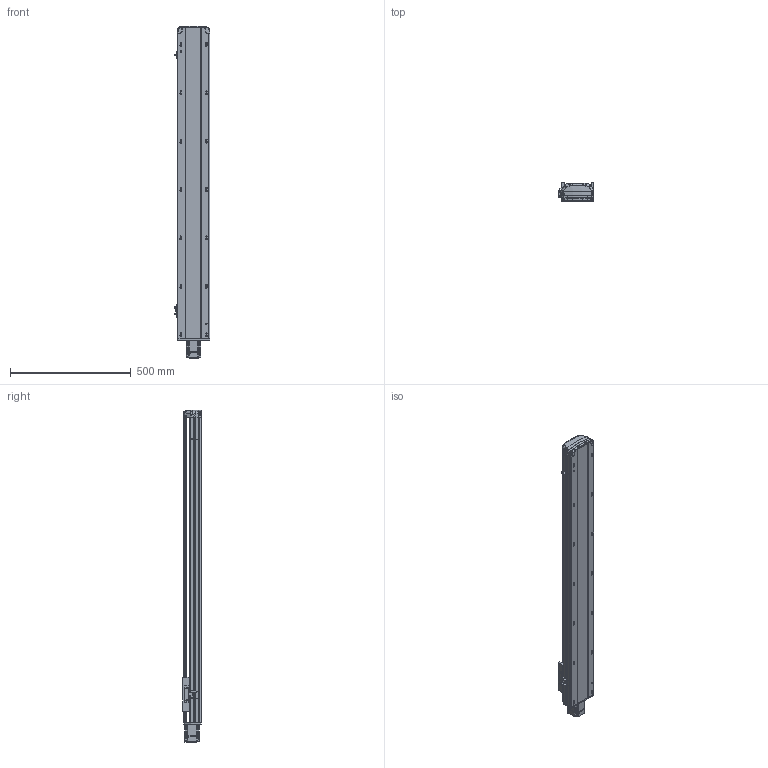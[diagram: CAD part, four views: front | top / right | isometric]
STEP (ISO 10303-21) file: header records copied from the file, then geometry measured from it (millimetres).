
FILE_DESCRIPTION (( 'STEP AP214' ), '1' );
FILE_NAME ('RTH14-XX-1050-E-M20-C4.STEP', '2025-10-24T09:15:28', ( 'Microsoft' ), ( 'Microsoft' ), 'SwSTEP 2.0', 'SolidWorks 2018', '' );
FILE_SCHEMA (( 'AUTOMOTIVE_DESIGN' ));
Length unit declared in the file: millimetre
Products named in the file (9): N_RTH14-E-007P奻裔^RTH14-XX-XX-E-M20-C4; N_RTH14-E-011P菁釱^RTH14-XX-XX-E-M20-C4; N_OMRON EE-SX672 传感器^RTH14-XX-XX-E-M20-C4; RTH14-XX-1050-E-M20-C4; N_MSMD022P1AA_200W^RTH14-XX-XX-E-M20-C4; N_RTH13-L-012感应片（外置）^RTH14-XX-XX-E-M20-C4; N_RTH14-R-004-SFSR16賑釱^RTH14-XX-XX-E-M20-C4; N_RTH13-E-008萇儂耜猾裔^RTH14-XX-XX-E-M20-C4; N_RTH14-GY-001P^RTH14-XX-XX-E-M20-C4
Assembly tree (10 placements, depth 2):
  RTH14-XX-1050-E-M20-C4
    N_RTH14-E-011P菁釱^RTH14-XX-XX-E-M20-C4
    N_RTH14-E-007P奻裔^RTH14-XX-XX-E-M20-C4
    N_MSMD022P1AA_200W^RTH14-XX-XX-E-M20-C4
    N_RTH13-L-012感应片（外置）^RTH14-XX-XX-E-M20-C4
    N_OMRON EE-SX672 传感器^RTH14-XX-XX-E-M20-C4  x3
    N_RTH13-E-008萇儂耜猾裔^RTH14-XX-XX-E-M20-C4
    N_RTH14-R-004-SFSR16賑釱^RTH14-XX-XX-E-M20-C4
    N_RTH14-GY-001P^RTH14-XX-XX-E-M20-C4
Bounding box: 148.5 x 78.02 x 1372.37 mm (x, y, z)
Volume: 5553501.3 mm3; surface area: 1223922.4 mm2
Topology: 10 solids, 10 shells, 1895 faces, 5338 edges, 3508 vertices
Faces by surface type: plane 981, cylinder 524, bspline 341, cone 45, torus 4
Entity records: 58292 total; most frequent: CARTESIAN_POINT 23120, ORIENTED_EDGE 7744, DIRECTION 6299, EDGE_CURVE 3872, VERTEX_POINT 2544, VECTOR 2195, LINE 2195, AXIS2_PLACEMENT_3D 2052
